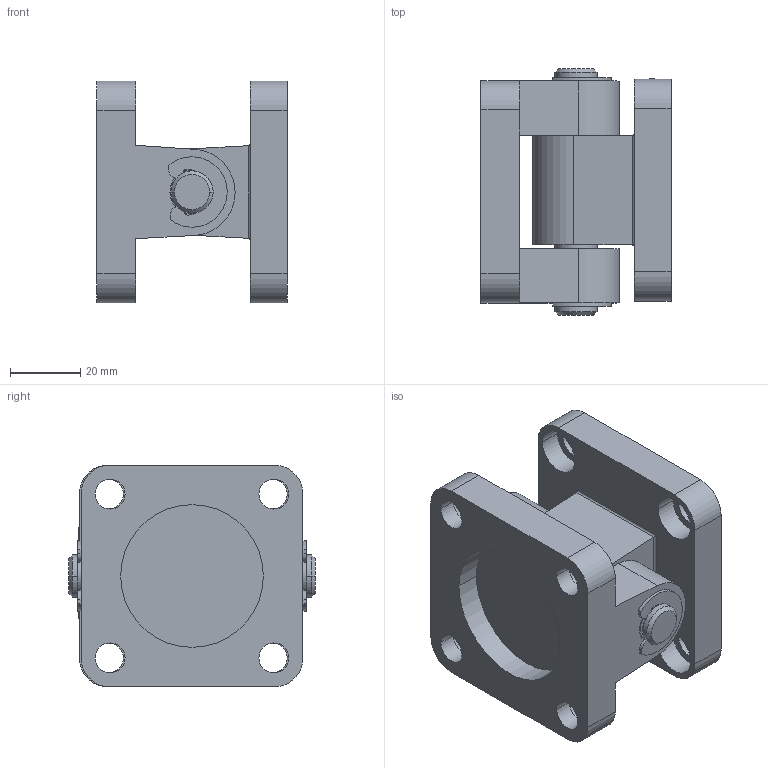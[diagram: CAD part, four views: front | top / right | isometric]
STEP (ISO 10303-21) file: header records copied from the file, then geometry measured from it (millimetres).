
FILE_DESCRIPTION(('CATIA V5 STEP Exchange'),'2;1');
FILE_NAME('D:\stp file for catalog\BAST-CAB\CAB 50.stp','2018-06-13T06:12:53+00:00',('none'),('none'),'CATIA Version 5-6 Release 2016','CATIA V5 STEP AP203','none');
FILE_SCHEMA(('CONFIG_CONTROL_DESIGN'));
Length unit declared in the file: millimetre
Products named in the file (1): PNC-CAB 40
Assembly tree (6 placements, depth 2):
  PNC-CAB 40
    #57
    #14266
    #15547
    #15570
    #16039
    #16788
Bounding box: 54 x 70 x 63 mm (x, y, z)
Volume: 99812.3 mm3; surface area: 36452.3 mm2
Topology: 5 solids, 5 shells, 583 faces, 1589 edges, 1058 vertices
Faces by surface type: plane 484, cylinder 95, cone 4
Entity records: 17514 total; most frequent: ORIENTED_EDGE 3178, CARTESIAN_POINT 3129, DIRECTION 2481, EDGE_CURVE 1589, VECTOR 1395, LINE 1395, VERTEX_POINT 1058, EDGE_LOOP 647
